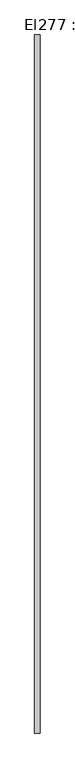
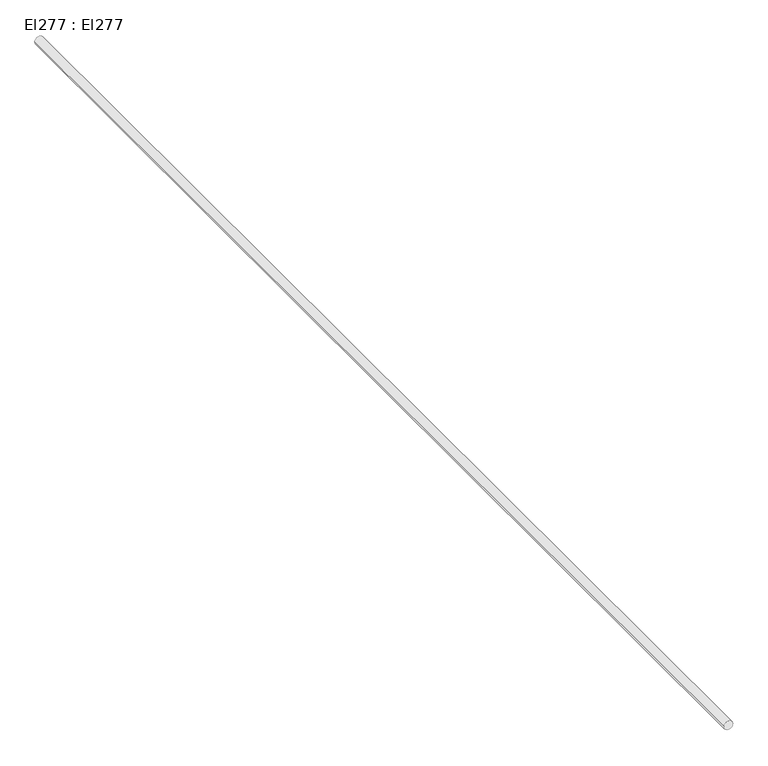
"""IFC4 building model written with IfcOpenShell, lengths in millimetres: cable carrier segment geometry, El277 : El277."""

from ifc_helpers import new_model, si_unit, point, frame, frame_2d, origin, place, context, project, spatial, circle_curve, trimmed, segment, composite_curve, outline, extrude, source, transform, mapped, element, save


def el277_el277_099902e0(model_context):
    return source(origin(), model_context, "Body", "SweptSolid", [
        extrude(outline(composite_curve([segment(trimmed(circle_curve(frame_2d((2950.0, 7650.0)), 9.5), [point((2950.0, 7640.5))], [point((2950.0, 7659.5))], False, "CARTESIAN"), True, "CONTINUOUS"), segment(trimmed(circle_curve(frame_2d((2950.0, 7650.0)), 9.5), [point((2950.0, 7659.5))], [point((2950.0, 7640.5))], False, "CARTESIAN"), True, "CONTINUOUS")], self_intersect=False)), frame((0.0, 21281.56, 0.0), z_axis=(0.0, 1.0, 0.0), x_axis=(0.0, 0.0, 1.0)), (0.0, 0.0, 1.0), 2516.68),
    ])


if __name__ == "__main__":
    model = new_model("IFC4")
    model_context = context("Model", 3, world=origin())
    ifc_project = project(units=[si_unit("LENGTHUNIT", "METRE", prefix="MILLI")], contexts=[model_context])
    site = spatial("IfcSite", under=ifc_project)
    building = spatial("IfcBuilding", under=site)
    placement = place(None, origin())
    el277_el277_shape = el277_el277_099902e0(model_context)
    element("IfcCableCarrierSegment", 1, ObjectType="El277 : El277", at=placement, inside=building, context=model_context, shape_type="MappedRepresentation", body=[
        mapped(el277_el277_shape, transform((0.0, 0.0, 0.0), x_axis=(1.0, 0.0, 0.0), y_axis=(0.0, 1.0, 0.0), z_axis=(0.0, 0.0, 1.0))),
    ])
    save(model, "model.ifc")
